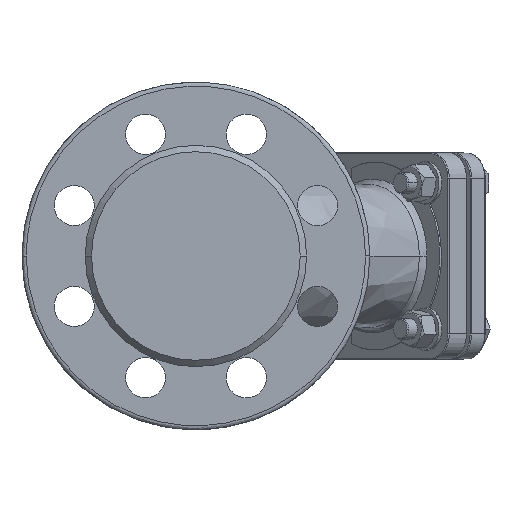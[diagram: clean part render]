
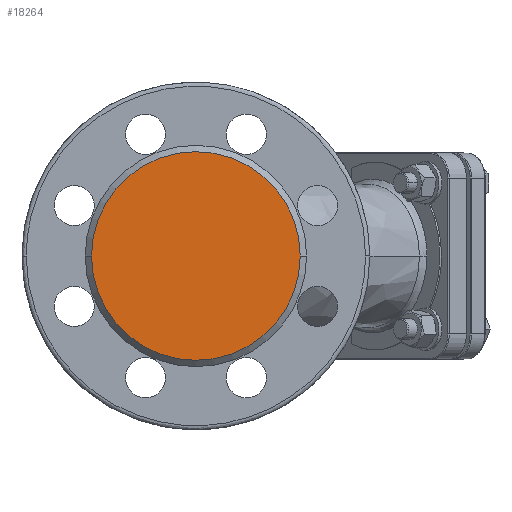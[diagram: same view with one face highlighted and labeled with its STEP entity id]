
A CAD part, left-side view. The second image highlights one B-rep face of the part: STEP entity #18264.
In plain terms, the highlighted planar face has unit normal (-1, 0, 0).
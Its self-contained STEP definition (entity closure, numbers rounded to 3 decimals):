
#3954 = DIRECTION ( 'NONE',  ( 0., 1., 0. ) ) ;
#4812 = CIRCLE ( 'NONE', #29683, 49.5 ) ;
#5223 = CARTESIAN_POINT ( 'NONE',  ( 0., 49.5, 0. ) ) ;
#5549 = CIRCLE ( 'NONE', #26227, 49.5 ) ;
#5957 = CARTESIAN_POINT ( 'NONE',  ( 0., -49.5, 0. ) ) ;
#7679 = PLANE ( 'NONE',  #26564 ) ;
#14394 = DIRECTION ( 'NONE',  ( 1., 0., 0. ) ) ;
#18264 = ADVANCED_FACE ( 'NONE', ( #33506 ), #7679, .F. ) ;
#21370 = VERTEX_POINT ( 'NONE', #5223 ) ;
#24984 = ORIENTED_EDGE ( 'NONE', *, *, #34246, .F. ) ;
#25303 = CARTESIAN_POINT ( 'NONE',  ( 0., 0., 0. ) ) ;
#25920 = DIRECTION ( 'NONE',  ( 1., 0., 0. ) ) ;
#26227 = AXIS2_PLACEMENT_3D ( 'NONE', #25303, #14394, #43853 ) ;
#26522 = VERTEX_POINT ( 'NONE', #5957 ) ;
#26564 = AXIS2_PLACEMENT_3D ( 'NONE', #37476, #33348, #37010 ) ;
#29683 = AXIS2_PLACEMENT_3D ( 'NONE', #40318, #25920, #3954 ) ;
#31270 = EDGE_LOOP ( 'NONE', ( #24984, #38127 ) ) ;
#33348 = DIRECTION ( 'NONE',  ( 1., 0., 0. ) ) ;
#33506 = FACE_OUTER_BOUND ( 'NONE', #31270, .T. ) ;
#34246 = EDGE_CURVE ( 'NONE', #21370, #26522, #5549, .T. ) ;
#37010 = DIRECTION ( 'NONE',  ( 0., 0., -1. ) ) ;
#37476 = CARTESIAN_POINT ( 'NONE',  ( 0., 0., 0. ) ) ;
#38127 = ORIENTED_EDGE ( 'NONE', *, *, #40116, .F. ) ;
#40116 = EDGE_CURVE ( 'NONE', #26522, #21370, #4812, .T. ) ;
#40318 = CARTESIAN_POINT ( 'NONE',  ( 0., 0., 0. ) ) ;
#43853 = DIRECTION ( 'NONE',  ( 0., 1., 0. ) ) ;
